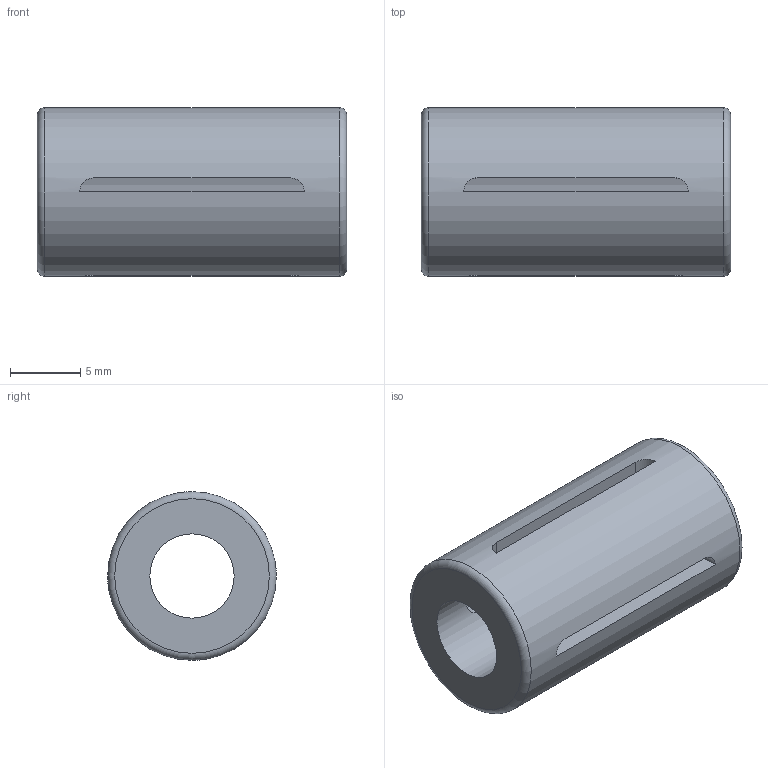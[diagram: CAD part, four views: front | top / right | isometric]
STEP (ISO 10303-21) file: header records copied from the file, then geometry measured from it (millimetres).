
FILE_DESCRIPTION(/* description */ ('Unknown'),/* implementation_level */ '2;1');
FILE_NAME(/* name */ 'KH0622',/* time_stamp */ '2025-02-04T09:41:43+08:00',/* author */ ('Unknown'),/* organization */ ('Unknown'),/* preprocessor_version */ 'ST-DEVELOPER v18.102',/* originating_system */ 'Solid Edge',/* authorisation */ 'Unknown');
FILE_SCHEMA (('AUTOMOTIVE_DESIGN {1 0 10303 214 3 1 1}'));
Length unit declared in the file: millimetre
Products named in the file (1): KH0622
Bounding box: 22 x 12 x 12 mm (x, y, z)
Volume: 1673.6 mm3; surface area: 1674.4 mm2
Topology: 1 solids, 1 shells, 22 faces, 60 edges, 38 vertices
Faces by surface type: cylinder 10, plane 10, torus 2
Full cylindrical faces by diameter (mm): 6 x1, 12 x1
Entity records: 734 total; most frequent: CARTESIAN_POINT 179, ORIENTED_EDGE 108, DIRECTION 90, EDGE_CURVE 54, VERTEX_POINT 38, EDGE_LOOP 36, FACE_BOUND 36, LINE 32
